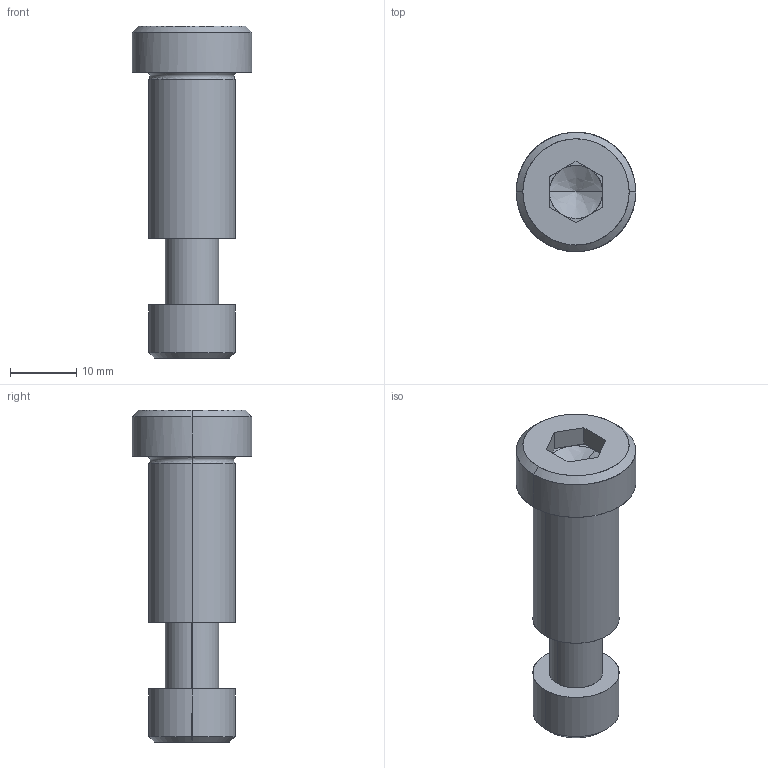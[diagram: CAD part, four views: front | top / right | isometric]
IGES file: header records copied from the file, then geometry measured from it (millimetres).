
Global section: file name: E:\UnigraphicsGraphicData\MISUMI_PRESS-PARTS\IGES\3d_sbtc13-25_05094_r00.igs; native system: NX V5.0; preprocessor: UGS NX IGES V5.0; author: MISUMI; date: 20110105.162444; units: millimetre
Bounding box: 18 x 18 x 50 mm (x, y, z)
Surface area: 3680.2 mm2 (no closed solid volume)
Topology: 0 solids, 0 shells, 52 faces, 286 edges, 282 vertices
Faces by surface type: bspline 52
